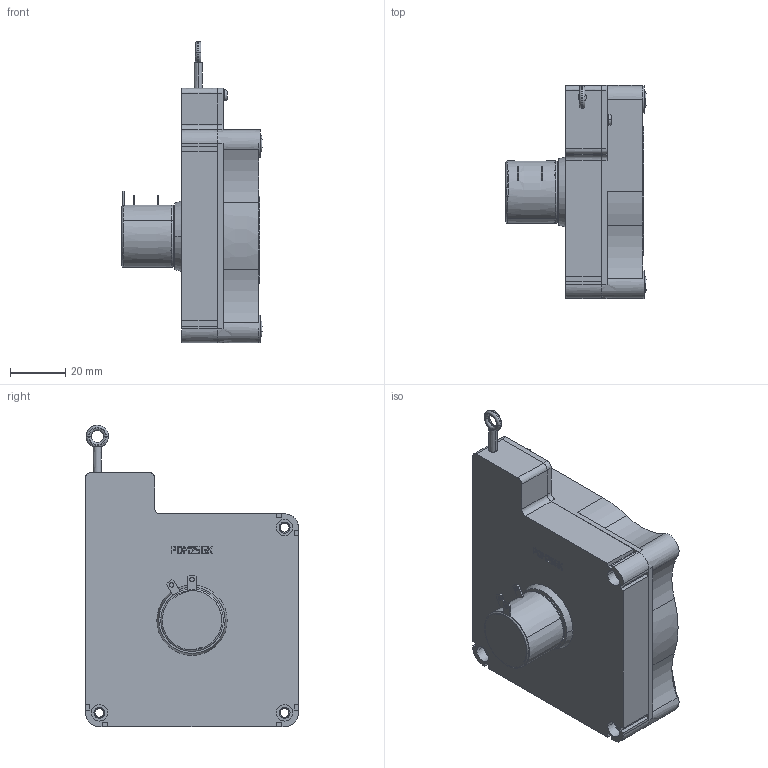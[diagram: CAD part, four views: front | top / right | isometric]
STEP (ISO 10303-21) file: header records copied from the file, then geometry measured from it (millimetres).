
FILE_DESCRIPTION((''),'2;1');
FILE_NAME('WPS-2100-MK77-P','2010-05-27T',(''),(''),'PRO/ENGINEER BY PARAMETRIC TECHNOLOGY CORPORATION, 2003250','PRO/ENGINEER BY PARAMETRIC TECHNOLOGY CORPORATION, 2003250','');
FILE_SCHEMA(('CONFIG_CONTROL_DESIGN'));
Length unit declared in the file: millimetre
Products named in the file (7): KRYT_SENZORU; TELESO_SENZORU; POTENCIOMETR-BOURNS; DUTY_NYT_4X25; OKO; KB22X8; WPS-2100-MK77-P
Assembly tree (8 placements, depth 2):
  WPS-2100-MK77-P
    KRYT_SENZORU
    TELESO_SENZORU
    POTENCIOMETR-BOURNS
    DUTY_NYT_4X25  x3
    OKO
    KB22X8
Bounding box: 50.65 x 77 x 109 mm (x, y, z)
Surface area: 58134.6 mm2 (no closed solid volume)
Topology: 0 solids, 0 shells, 879 faces, 4754 edges, 4728 vertices
Faces by surface type: bspline 853, torus 26
Entity records: 75409 total; most frequent: CARTESIAN_POINT 34235, DIRECTION 6330, TRIMMED_CURVE 5564, VECTOR 4872, LINE 4872, DEFINITIONAL_REPRESENTATION 4630, PCURVE 4630, COMPOSITE_CURVE_SEGMENT 4630
